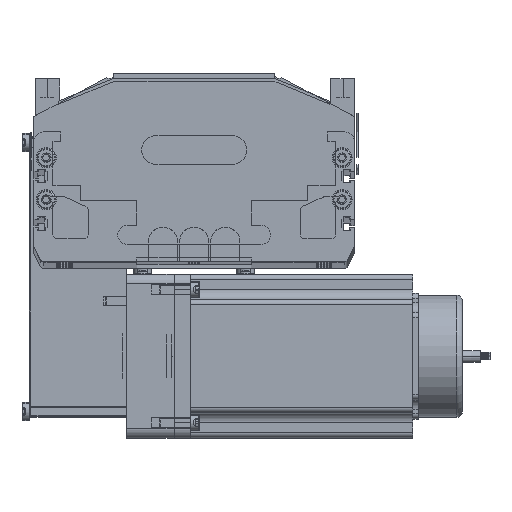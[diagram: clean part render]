
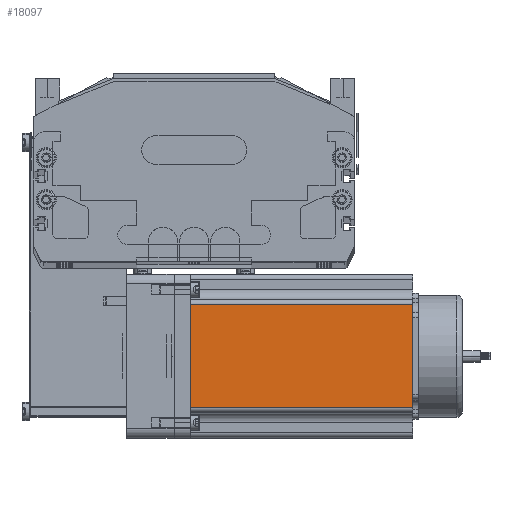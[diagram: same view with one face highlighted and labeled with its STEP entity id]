
A CAD part, top view. The second image highlights one B-rep face of the part: STEP entity #18097.
In plain terms, the highlighted planar face has unit normal (0, 0, 1) as drawn and (0, -1, 0) by its records, which use the part's own axes.
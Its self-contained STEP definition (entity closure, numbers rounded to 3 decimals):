
#17959 = EDGE_CURVE ( 'NONE', #17960, #17965, #46062, .T. ) ;
#17960 = VERTEX_POINT ( 'NONE', #45083 ) ;
#17963 = ORIENTED_EDGE ( 'NONE', *, *, #18106, .F. ) ;
#17965 = VERTEX_POINT ( 'NONE', #45621 ) ;
#17966 = ORIENTED_EDGE ( 'NONE', *, *, #17959, .T. ) ;
#17979 = EDGE_CURVE ( 'NONE', #18066, #18122, #46539, .T. ) ;
#18010 = ORIENTED_EDGE ( 'NONE', *, *, #18121, .T. ) ;
#18066 = VERTEX_POINT ( 'NONE', #46615 ) ;
#18067 = ORIENTED_EDGE ( 'NONE', *, *, #17979, .T. ) ;
#18097 = ADVANCED_FACE ( 'NONE', ( #46725 ), #46724, .F. ) ;
#18105 = EDGE_LOOP ( 'NONE', ( #18010, #18067, #17963, #17966 ) ) ;
#18106 = EDGE_CURVE ( 'NONE', #17960, #18122, #47016, .T. ) ;
#18121 = EDGE_CURVE ( 'NONE', #17965, #18066, #46921, .T. ) ;
#18122 = VERTEX_POINT ( 'NONE', #46913 ) ;
#45083 = CARTESIAN_POINT ( 'NONE',  ( 16.16, 0., 116.5 ) ) ;
#45621 = CARTESIAN_POINT ( 'NONE',  ( 16.16, 0., 0. ) ) ;
#46061 = CARTESIAN_POINT ( 'NONE',  ( 16.16, 0., 116.5 ) ) ;
#46062 = LINE ( 'NONE', #46061, #46431 ) ;
#46429 = DIRECTION ( 'NONE',  ( 0., 0., -1. ) ) ;
#46431 = VECTOR ( 'NONE', #46429, 1000. ) ;
#46539 = LINE ( 'NONE', #46572, #46580 ) ;
#46572 = CARTESIAN_POINT ( 'NONE',  ( 69.74, 0., 116.5 ) ) ;
#46578 = DIRECTION ( 'NONE',  ( 0., 0., 1. ) ) ;
#46580 = VECTOR ( 'NONE', #46578, 1000. ) ;
#46615 = CARTESIAN_POINT ( 'NONE',  ( 69.74, 0., 0. ) ) ;
#46724 = PLANE ( 'NONE',  #46872 ) ;
#46725 = FACE_OUTER_BOUND ( 'NONE', #18105, .T. ) ;
#46780 = CARTESIAN_POINT ( 'NONE',  ( 0., 0., 116.5 ) ) ;
#46872 = AXIS2_PLACEMENT_3D ( 'NONE', #46780, #46930, #46929 ) ;
#46905 = DIRECTION ( 'NONE',  ( 1., 0., 0. ) ) ;
#46907 = VECTOR ( 'NONE', #46905, 1000. ) ;
#46909 = CARTESIAN_POINT ( 'NONE',  ( 0., 0., 0. ) ) ;
#46913 = CARTESIAN_POINT ( 'NONE',  ( 69.74, 0., 116.5 ) ) ;
#46921 = LINE ( 'NONE', #46909, #46907 ) ;
#46929 = DIRECTION ( 'NONE',  ( 0., 0., 1. ) ) ;
#46930 = DIRECTION ( 'NONE',  ( 0., 1., 0. ) ) ;
#47013 = DIRECTION ( 'NONE',  ( 1., 0., 0. ) ) ;
#47014 = VECTOR ( 'NONE', #47013, 1000. ) ;
#47015 = CARTESIAN_POINT ( 'NONE',  ( 0., 0., 116.5 ) ) ;
#47016 = LINE ( 'NONE', #47015, #47014 ) ;
